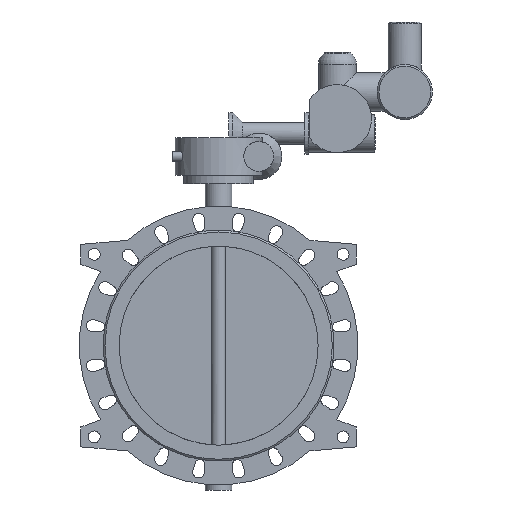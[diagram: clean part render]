
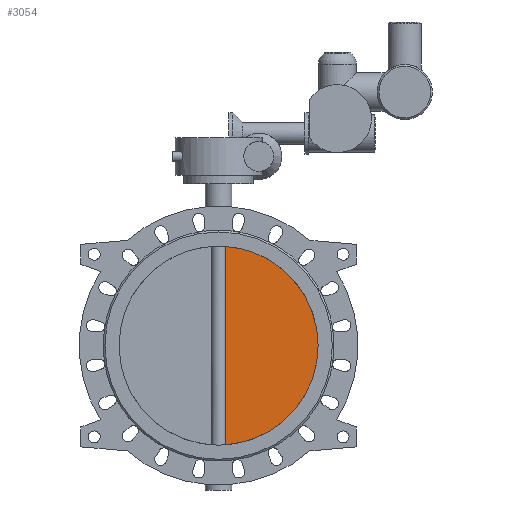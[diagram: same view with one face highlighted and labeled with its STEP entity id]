
A CAD part, front view. The second image highlights one B-rep face of the part: STEP entity #3054.
In plain terms, the highlighted planar face has unit normal (0, -1, 0).
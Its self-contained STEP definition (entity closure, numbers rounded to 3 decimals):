
#3054=ADVANCED_FACE('',(#5846),#5848,.T.);
#5846=FACE_BOUND('',#5847,.T.);
#5847=EDGE_LOOP('',(#7642,#7643));
#5848=PLANE('',#5849);
#5849=AXIS2_PLACEMENT_3D('',#5850,#5851,#5852);
#5850=CARTESIAN_POINT('',(0.,-7.5,0.));
#5851=DIRECTION('',(0.,-1.,0.));
#5852=DIRECTION('',(1.,0.,0.));
#7642=ORIENTED_EDGE('',*,*,#8532,.T.);
#7643=ORIENTED_EDGE('',*,*,#8542,.T.);
#8532=EDGE_CURVE('',#10028,#10029,#10030,.F.);
#8542=EDGE_CURVE('',#10029,#10028,#10048,.T.);
#10028=VERTEX_POINT('',#15882);
#10029=VERTEX_POINT('',#15883);
#10030=CIRCLE('',#15884,300.);
#10048=LINE('',#16315,#16316);
#15882=CARTESIAN_POINT('',(21.213,-7.5,-299.249));
#15883=CARTESIAN_POINT('',(21.213,-7.5,299.249));
#15884=AXIS2_PLACEMENT_3D('',#15885,#15886,#15887);
#15885=CARTESIAN_POINT('',(0.,-7.5,0.));
#15886=DIRECTION('',(0.,1.,0.));
#15887=DIRECTION('',(0.071,0.,0.997));
#16315=CARTESIAN_POINT('',(21.213,-7.5,299.249));
#16316=VECTOR('',#16317,1.);
#16317=DIRECTION('',(0.,0.,-1.));
